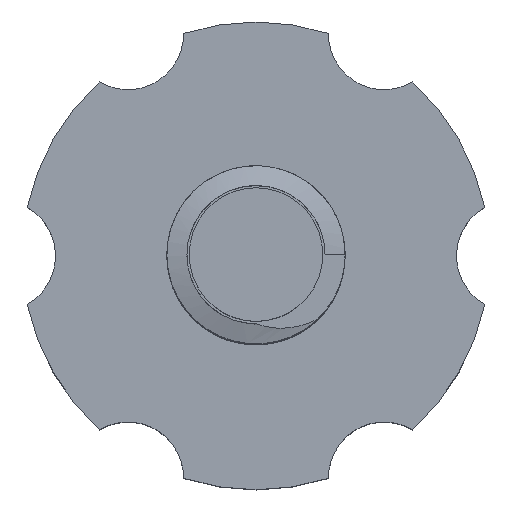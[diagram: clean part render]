
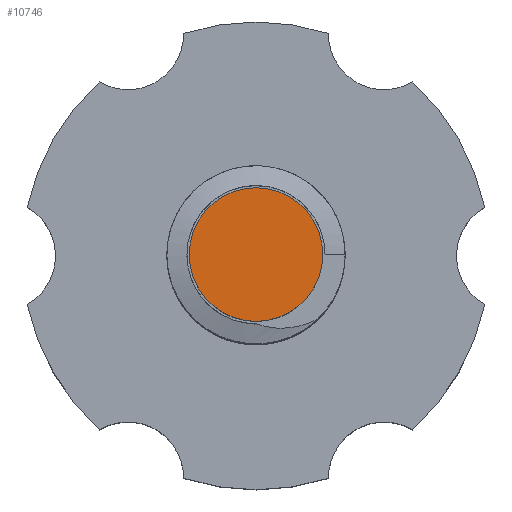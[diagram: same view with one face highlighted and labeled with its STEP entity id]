
A CAD part, top view. The second image highlights one B-rep face of the part: STEP entity #10746.
In plain terms, the highlighted planar face has unit normal (0, 0, 1).
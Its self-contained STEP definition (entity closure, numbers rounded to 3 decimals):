
#10322 = CYLINDRICAL_SURFACE('',#10323,6.);
#10323 = AXIS2_PLACEMENT_3D('',#10324,#10325,#10326);
#10324 = CARTESIAN_POINT('',(65.,33.,-33.1));
#10325 = DIRECTION('',(-0.,-0.,-1.));
#10326 = DIRECTION('',(1.,0.,0.));
#10696 = VERTEX_POINT('',#10697);
#10697 = CARTESIAN_POINT('',(71.,33.,-25.));
#10718 = EDGE_CURVE('',#10696,#10696,#10719,.T.);
#10719 = SURFACE_CURVE('',#10720,(#10725,#10732),.PCURVE_S1.);
#10720 = CIRCLE('',#10721,6.);
#10721 = AXIS2_PLACEMENT_3D('',#10722,#10723,#10724);
#10722 = CARTESIAN_POINT('',(65.,33.,-25.));
#10723 = DIRECTION('',(0.,0.,1.));
#10724 = DIRECTION('',(1.,0.,-0.));
#10725 = PCURVE('',#10322,#10726);
#10726 = DEFINITIONAL_REPRESENTATION('',(#10727),#10731);
#10727 = LINE('',#10728,#10729);
#10728 = CARTESIAN_POINT('',(6.283,-8.1));
#10729 = VECTOR('',#10730,1.);
#10730 = DIRECTION('',(-1.,0.));
#10731 = ( GEOMETRIC_REPRESENTATION_CONTEXT(2) 
PARAMETRIC_REPRESENTATION_CONTEXT() REPRESENTATION_CONTEXT('2D SPACE',''
  ) );
#10732 = PCURVE('',#10733,#10738);
#10733 = PLANE('',#10734);
#10734 = AXIS2_PLACEMENT_3D('',#10735,#10736,#10737);
#10735 = CARTESIAN_POINT('',(65.,33.,-25.));
#10736 = DIRECTION('',(0.,0.,1.));
#10737 = DIRECTION('',(1.,0.,-0.));
#10738 = DEFINITIONAL_REPRESENTATION('',(#10739),#10743);
#10739 = CIRCLE('',#10740,6.);
#10740 = AXIS2_PLACEMENT_2D('',#10741,#10742);
#10741 = CARTESIAN_POINT('',(0.,0.));
#10742 = DIRECTION('',(1.,0.));
#10743 = ( GEOMETRIC_REPRESENTATION_CONTEXT(2) 
PARAMETRIC_REPRESENTATION_CONTEXT() REPRESENTATION_CONTEXT('2D SPACE',''
  ) );
#10746 = ADVANCED_FACE('',(#10747),#10733,.T.);
#10747 = FACE_BOUND('',#10748,.T.);
#10748 = EDGE_LOOP('',(#10749));
#10749 = ORIENTED_EDGE('',*,*,#10718,.T.);
